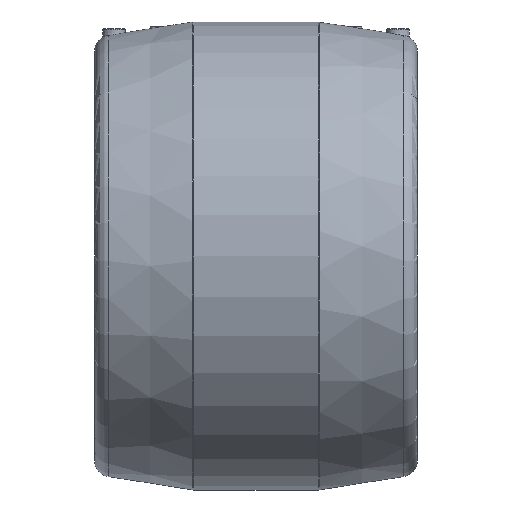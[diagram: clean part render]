
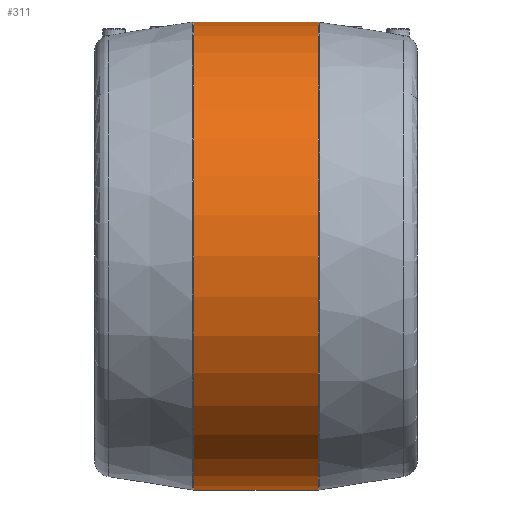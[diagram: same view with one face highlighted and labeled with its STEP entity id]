
A CAD part, front view. The second image highlights one B-rep face of the part: STEP entity #311.
In plain terms, the highlighted cylindrical face has radius 219 mm (diameter 438 mm), a full revolution.
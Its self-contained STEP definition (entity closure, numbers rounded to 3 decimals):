
#21=CYLINDRICAL_SURFACE('',#360,219.);
#68=ORIENTED_EDGE('',*,*,#122,.T.);
#69=ORIENTED_EDGE('',*,*,#123,.T.);
#122=EDGE_CURVE('',#150,#150,#174,.F.);
#123=EDGE_CURVE('',#151,#151,#175,.T.);
#150=VERTEX_POINT('',#599);
#151=VERTEX_POINT('',#601);
#174=CIRCLE('',#361,219.);
#175=CIRCLE('',#362,219.);
#206=EDGE_LOOP('',(#68));
#207=EDGE_LOOP('',(#69));
#260=FACE_BOUND('',#206,.T.);
#261=FACE_BOUND('',#207,.T.);
#311=ADVANCED_FACE('',(#260,#261),#21,.T.);
#360=AXIS2_PLACEMENT_3D('',#597,#429,#430);
#361=AXIS2_PLACEMENT_3D('',#598,#431,#432);
#362=AXIS2_PLACEMENT_3D('',#600,#433,#434);
#429=DIRECTION('',(-1.,0.,0.));
#430=DIRECTION('',(0.,0.,1.));
#431=DIRECTION('',(1.,0.,0.));
#432=DIRECTION('',(0.,0.,-1.));
#433=DIRECTION('',(1.,0.,0.));
#434=DIRECTION('',(0.,0.,-1.));
#597=CARTESIAN_POINT('',(-60.,0.,0.));
#598=CARTESIAN_POINT('',(58.217,0.,0.));
#599=CARTESIAN_POINT('',(58.217,0.,-219.));
#600=CARTESIAN_POINT('',(-58.217,0.,0.));
#601=CARTESIAN_POINT('',(-58.217,0.,-219.));
